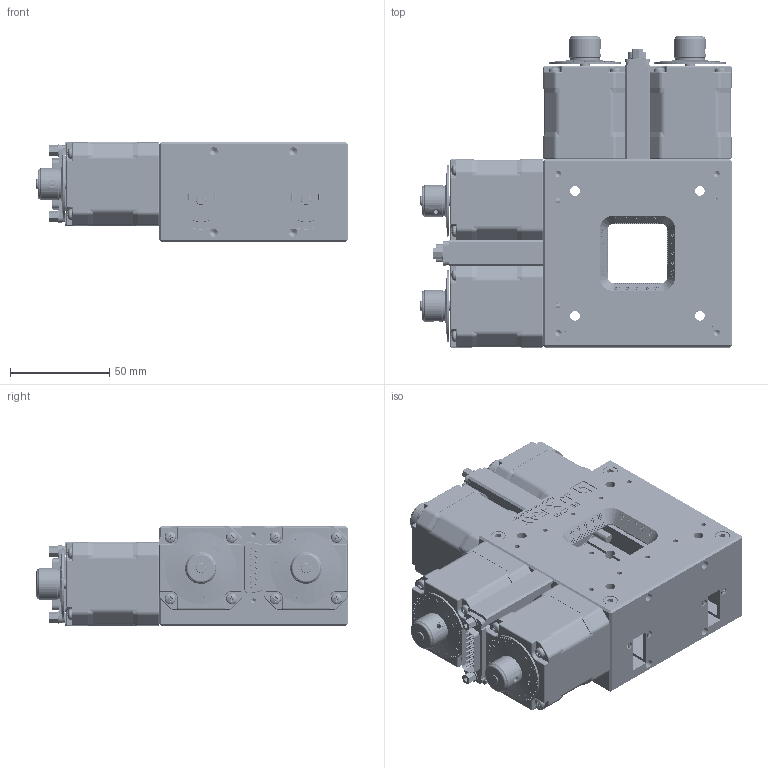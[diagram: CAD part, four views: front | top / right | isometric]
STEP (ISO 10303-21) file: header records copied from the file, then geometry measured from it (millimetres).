
FILE_DESCRIPTION((''),'2;1');
FILE_NAME('C:\WF\Designs\Slitter\IBC30 Gammel JJ T3 air\0205 Slittype 3 Star rails\JJ X-Ray hjemmeside\IB-C30-Air.stp','2012-10-01T11:05:09',('Henning'),(''),'Autodesk Inventor 2013','Autodesk Inventor 2013','');
FILE_SCHEMA(('AUTOMOTIVE_DESIGN { 1 0 10303 214 1 1 1 1 }'));
Length unit declared in the file: millimetre
Products named in the file (27): komplet ny ver_SE10 uden indmad for step; 961201g2 uden indmad; 961205g2; DIN EN 28 734  A - erstattet af DIN EN ISO 8734 1 x 8 - A; Nema 17 motor (42x42) [Part Number [Project]=FL42STH47-1206MB][Description [Project]=Elmeq]; 961209g4; Dsub 15 Pin, 2 Row, Male; D-Connector screw; Skalaknap-A; skalaknap del3; skalaknap; skalaknap del2; skalaknap del1; DIN EN ISO 7046-1  H  (Normal gevind) M3 x 10 - 4.8 - H; DIN EN ISO 7045 Z M3 x 30 - 4.8 - Z; 961201h2 uden indmad; 961205h2; M4x20 - 8.8 - H1; M4-35
Assembly tree (58 placements, depth 4):
  komplet ny ver_SE10 uden indmad for step
    961201g2 uden indmad
      961205g2
      DIN EN 28 734  A - erstattet af DIN EN ISO 8734 1 x 8 - A  x4
      Nema 17 motor (42x42) [Part Number [Project]=FL42STH47-1206MB][Description [Project]=Elmeq]  x2
      961209g4
      Dsub 15 Pin, 2 Row, Male
      D-Connector screw  x2
      Skalaknap-A  x2
        skalaknap del3
        skalaknap
        skalaknap del2
        skalaknap del1
      DIN EN ISO 7046-1  H  (Normal gevind) M3 x 10 - 4.8 - H
      DIN EN ISO 7045 Z M3 x 30 - 4.8 - Z  x8
    961201h2 uden indmad
      961205h2
      DIN EN 28 734  A - erstattet af DIN EN ISO 8734 1 x 8 - A  x4
      Nema 17 motor (42x42) [Part Number [Project]=FL42STH47-1206MB][Description [Project]=Elmeq]  x2
      961209g4
      Dsub 15 Pin, 2 Row, Male
      D-Connector screw  x2
      skalaknap  x2
        skalaknap del3
        skalaknap
        skalaknap del2
        skalaknap del1
      M4x20 - 8.8 - H1
      DIN EN ISO 7045 Z M3 x 30 - 4.8 - Z  x8
    M4-35  x4
Bounding box: 157 x 157 x 50 mm (x, y, z)
Volume: 506720.7 mm3; surface area: 172925.4 mm2
Topology: 60 solids, 60 shells, 9269 faces, 24741 edges, 16294 vertices
Faces by surface type: plane 5306, bspline 2187, cylinder 940, cone 581, torus 193, sphere 62
Full cylindrical faces by diameter (mm): 0.991 x30, 1 x8, 1.1 x16, 1.221 x16, 2 x4, 2.156 x4, 2.459 x34, 2.487 x4, 2.693 x1, 2.729 x16, 2.82 x4, 3 x17, 3.048 x4, 3.242 x4, 3.5 x10, 3.7 x8, 4 x22, 4.134 x8, 4.5 x20, 4.917 x8, 5 x24, 5.5 x1, 6.5 x4, 7 x4, 7.5 x4, 8.4 x1, 15 x4, 16 x4, 20 x4, 22 x4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
Entity records: 203076 total; most frequent: CARTESIAN_POINT 63720, ORIENTED_EDGE 31548, DIRECTION 22569, EDGE_CURVE 15774, VERTEX_POINT 10535, VECTOR 9931, LINE 9931, EDGE_LOOP 7157
